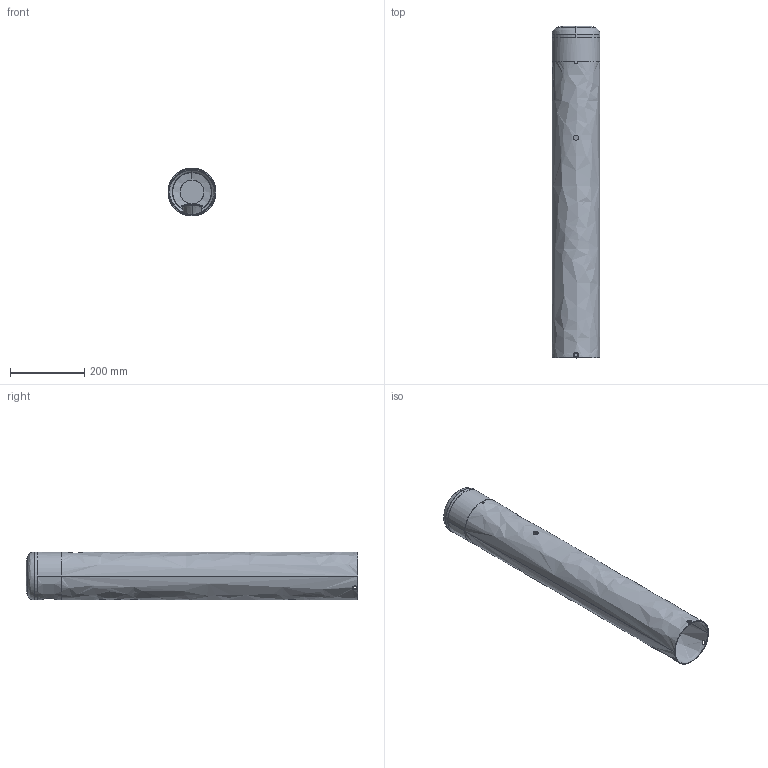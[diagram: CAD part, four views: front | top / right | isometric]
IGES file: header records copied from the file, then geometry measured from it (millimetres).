
Start section: SolidWorks IGES file using analytic representation for surfaces
Global section: file name: C:\SANTACOLE_PDM\I2\Productos de catálogo\outdoor\Mobiliario\Humo (cenicero)\6_TECNICO COMERCIAL\3D WEB\Cenicero Humo.IGS; native system: SolidWorks 2013; preprocessor: SolidWorks 2013; author: jordi.munoz; date: 150807.120236; units: millimetre
Bounding box: 129 x 895 x 129 mm (x, y, z)
Surface area: 744490.7 mm2 (no closed solid volume)
Topology: 0 solids, 0 shells, 71 faces, 1380 edges, 1380 vertices
Faces by surface type: bspline 39, revolution 32
